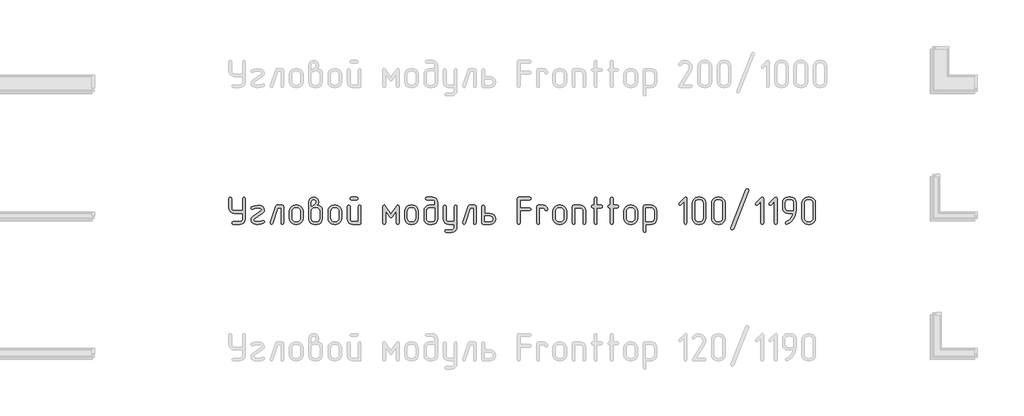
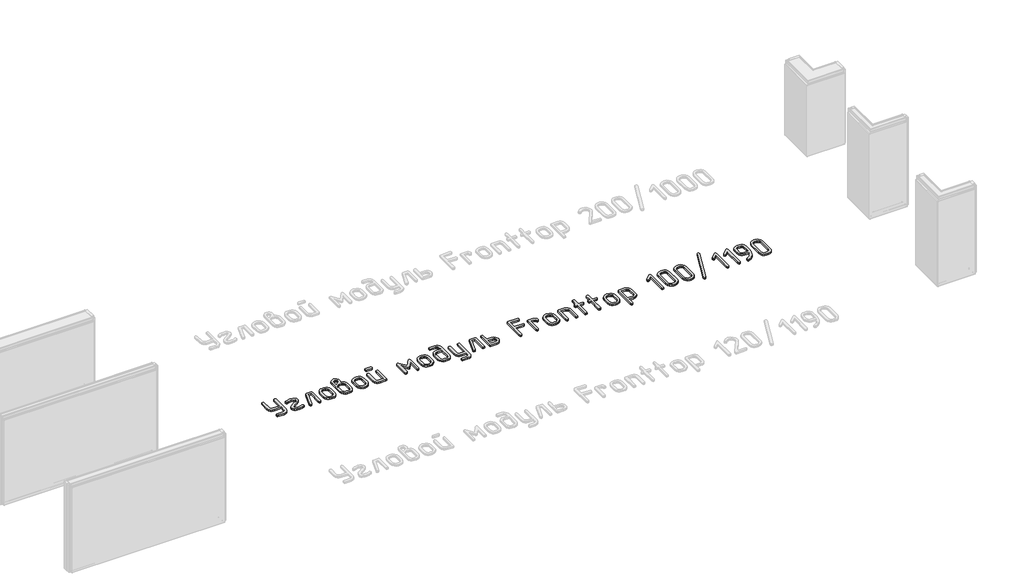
# One storey, part 30 of 37: 1 proxy.
"""IFC4 building model written with IfcOpenShell, lengths in millimetres."""

from ifc_helpers import new_model, si_unit, origin, origin_with_axes, place, context, project, spatial, polyline, outline, extrude, element, save

model = new_model("IFC4")

# Units and contexts
model_context = context("Model", 3, world=origin())
ifc_project = project(units=[si_unit("LENGTHUNIT", "METRE", prefix="MILLI")], contexts=[model_context])

# Site, building, storey
site = spatial("IfcSite", under=ifc_project)
building = spatial("IfcBuilding", under=site)
storey = spatial("IfcBuildingStorey", under=building, Name="Этаж 01", Elevation=0.0)

# Proxy
placement = place(None, origin())
element("IfcBuildingElementProxy", 1, Name="300 мм ГОСТ 2.304", ObjectType="300 мм ГОСТ 2.304", at=placement, inside=storey, context=model_context, shape_type="SweptSolid", body=[
    extrude(outline(polyline([(64282.5947081, -25108.7261154), (64192.9398643, -25108.7261154), (64169.869135, -25104.3522505), (64150.5152523, -25091.2306559), (64137.3936577, -25071.8767732), (64133.0197928, -25048.8060439), (64133.0197928, -24944.2838139), (64137.4124296, -24933.1332743), (64148.3377058, -24928.9659009), (64158.6247356, -24932.9080109), (64163.205092, -24944.2838139), (64163.205092, -25048.8060439), (64165.3357086, -25060.4540402), (64171.7275583, -25070.0183499), (64181.2918679, -25076.4101996), (64192.9398643, -25078.5408162), (64282.5947081, -25078.5408162), (64282.5947081, -24944.2838139), (64286.949801, -24933.1332743), (64297.4620942, -24928.9659009), (64307.9368436, -24932.9080109), (64312.3294804, -24944.2838139), (64312.3294804, -25168.19566), (64307.9556155, -25191.6042844), (64294.8340209, -25211.0707988), (64275.8180333, -25223.8544983), (64252.8599358, -25228.1157314), (64178.0724781, -25228.1157314), (64167.147202, -25223.7606385), (64163.205092, -25213.2483453), (64166.9219385, -25202.736052), (64178.0724781, -25198.3809591), (64252.8599358, -25198.3809591), (64264.2263528, -25196.1940267), (64273.8469783, -25189.6332294), (64280.4077756, -25179.8999722), (64282.5947081, -25168.19566), (64282.5947081, -25108.7261154)])), origin_with_axes(), (0.0, 0.0, 1.0), 20.0),
    extrude(outline(polyline([(64514.9914765, -25214.524838), (64485.4444237, -25225.0746752), (64451.6173658, -25228.5662583), (64430.8180428, -25227.4774851), (64413.0973199, -25224.5866044), (64396.8408093, -25219.4524755), (64384.8643037, -25209.3062353), (64377.4869265, -25195.6496401), (64375.0278008, -25179.984446), (64378.9699108, -25160.7619669), (64391.2467675, -25144.618088), (64486.5331969, -25078.991343), (64491.4139045, -25069.8306304), (64487.5844263, -25060.4071103), (64476.0959915, -25054.0621905), (64442.3815653, -25049.7070976), (64416.2510079, -25052.4290307), (64397.32888, -25060.5948299), (64388.1681673, -25064.1239569), (64377.693418, -25059.5436005), (64373.3007812, -25048.355517), (64379.4579815, -25037.0172579), (64408.0664367, -25024.777945), (64445.0096386, -25020.4228521), (64450.2657853, -25020.4228521), (64479.1370478, -25023.9144352), (64501.85111, -25033.7509382), (64516.7184961, -25049.0313073), (64521.9746427, -25068.9295767), (64517.7134096, -25086.6315276), (64504.9297101, -25102.193476), (64409.5681929, -25168.19566), (64404.3871341, -25179.6090069), (64408.1039806, -25189.8584928), (64417.9029396, -25195.7528858), (64434.3096259, -25197.5174493), (64451.9928049, -25198.3809591), (64478.4612575, -25196.2034127), (64501.0251441, -25187.8686659), (64508.4588371, -25186.1416463), (64519.1588499, -25190.7220026), (64523.3262233, -25201.9100861), (64521.2425366, -25209.1936036), (64514.9914765, -25214.524838)])), origin_with_axes(), (0.0, 0.0, 1.0), 20.0),
    extrude(outline(polyline([(64734.3229662, -25213.2483453), (64730.1555928, -25224.3988849), (64719.45558, -25228.1157314), (64708.9432868, -25224.1736215), (64704.5881939, -25213.2483453), (64704.5881939, -25048.8060439), (64670.0478018, -25048.8060439), (64614.0322964, -25218.0539651), (64608.5884303, -25225.4876581), (64600.5164908, -25228.1157314), (64589.7789341, -25224.1736215), (64585.1985778, -25213.6988721), (64586.0996315, -25208.4427255), (64645.1186493, -25029.133038), (64650.4498837, -25021.5867132), (64659.5355086, -25019.0712716), (64719.45558, -25019.0712716), (64730.6061197, -25022.7881181), (64734.3229662, -25033.9386577), (64734.3229662, -25213.2483453)])), origin_with_axes(), (0.0, 0.0, 1.0), 20.0),
    extrude(outline(polyline([(64945.7702359, -25162.4889865), (64940.9646162, -25187.9812976), (64926.5477569, -25209.3437792), (64905.5231704, -25223.4227434), (64880.143491, -25228.1157314), (64862.1975047, -25228.1157314), (64836.7615094, -25223.4227434), (64815.4177998, -25209.3437792), (64801.0009405, -25187.9812976), (64796.1953207, -25162.4889865), (64796.1953207, -25084.6980165), (64801.0009405, -25059.5436005), (64815.4177998, -25038.2937506), (64837.1744924, -25023.8768913), (64862.1975047, -25019.0712716), (64880.143491, -25019.0712716), (64905.288521, -25023.8862773), (64926.510213, -25038.3312945), (64940.9552302, -25059.5529865), (64945.7702359, -25084.6980165), (64945.7702359, -25162.4889865)]), holes=[polyline([(64916.0354636, -25162.4889865), (64916.0354636, -25084.6980165), (64913.4073903, -25070.9194036), (64905.5231704, -25059.3183371), (64893.9221039, -25051.4341172), (64880.143491, -25048.8060439), (64862.1975047, -25048.8060439), (64848.4282777, -25051.4341172), (64836.8553692, -25059.3183371), (64828.9993072, -25070.9194036), (64826.3806199, -25084.6980165), (64826.3806199, -25162.4889865), (64828.9993072, -25176.2675994), (64836.8553692, -25187.8686659), (64848.4282777, -25195.7528858), (64862.1975047, -25198.3809591), (64880.143491, -25198.3809591), (64893.9221039, -25195.7528858), (64905.5231704, -25187.8686659), (64913.4073903, -25176.2675994), (64916.0354636, -25162.4889865)])]), origin_with_axes(), (0.0, 0.0, 1.0), 20.0),
    extrude(outline(polyline([(65097.2974342, -25019.9723253), (65122.7897453, -25024.2335584), (65142.3501195, -25037.0172579), (65153.5006592, -25055.057104), (65157.2175057, -25078.5408162), (65157.2175057, -25168.19566), (65152.8436408, -25191.6042844), (65139.7220462, -25211.0707988), (65120.5934269, -25223.8544983), (65097.2974342, -25228.1157314), (65067.5626619, -25228.1157314), (65044.4919326, -25223.8544983), (65025.1380499, -25211.0707988), (65012.0164553, -25191.6042844), (65007.6425905, -25168.19566), (65007.6425905, -24983.2543867), (65011.9038236, -24960.3901489), (65024.6875231, -24942.5567943), (65041.4133325, -24932.3636243), (65061.8559884, -24928.9659009), (65081.9607493, -24932.3636243), (65098.573927, -24942.5567943), (65111.0760472, -24960.2775172), (65115.2434206, -24982.8038599), (65111.0760472, -25004.8421318), (65097.2974342, -25019.9723253)]), holes=[polyline([(65127.4827334, -25168.19566), (65127.4827334, -25078.5408162), (65125.295801, -25067.1743991), (65118.7350037, -25057.5537736), (65109.0017464, -25050.9929763), (65097.2974342, -25048.8060439), (65067.5626619, -25048.8060439), (65055.9146656, -25050.9929763), (65046.3503559, -25057.5537736), (65039.9585062, -25067.1743991), (65037.8278896, -25078.5408162), (65037.8278896, -25168.19566), (65039.9585062, -25179.8999722), (65046.3503559, -25189.6332294), (65055.9146656, -25196.1940267), (65067.5626619, -25198.3809591), (65097.2974342, -25198.3809591), (65109.0017464, -25196.1940267), (65118.7350037, -25189.6332294), (65125.295801, -25179.8999722), (65127.4827334, -25168.19566)]), polyline([(65037.8278896, -25029.133038), (65044.8110558, -25025.0032085), (65050.0672025, -25021.248818), (65060.1289688, -25014.0403884), (65067.5626619, -25008.5589783), (65079.8019748, -24997.671246), (65085.5086482, -24983.2543867), (65083.7065408, -24973.1644624), (65078.3002186, -24965.7213834), (65070.4723145, -24961.1316411), (65061.4054616, -24959.601727), (65052.4512404, -24961.1316411), (65044.8110558, -24965.7213834), (65039.5736812, -24973.1644624), (65037.8278896, -24983.2543867), (65037.8278896, -25029.133038)])]), origin_with_axes(), (0.0, 0.0, 1.0), 20.0),
    extrude(outline(polyline([(65368.6647755, -25162.4889865), (65363.8591557, -25187.9812976), (65349.4422964, -25209.3437792), (65328.4177099, -25223.4227434), (65303.0380305, -25228.1157314), (65285.0920442, -25228.1157314), (65259.6560489, -25223.4227434), (65238.3123393, -25209.3437792), (65223.89548, -25187.9812976), (65219.0898602, -25162.4889865), (65219.0898602, -25084.6980165), (65223.89548, -25059.5436005), (65238.3123393, -25038.2937506), (65260.0690319, -25023.8768913), (65285.0920442, -25019.0712716), (65303.0380305, -25019.0712716), (65328.1830605, -25023.8862773), (65349.4047525, -25038.3312945), (65363.8497697, -25059.5529865), (65368.6647755, -25084.6980165), (65368.6647755, -25162.4889865)]), holes=[polyline([(65338.9300032, -25162.4889865), (65338.9300032, -25084.6980165), (65336.3019298, -25070.9194036), (65328.4177099, -25059.3183371), (65316.8166434, -25051.4341172), (65303.0380305, -25048.8060439), (65285.0920442, -25048.8060439), (65271.3228172, -25051.4341172), (65259.7499087, -25059.3183371), (65251.8938467, -25070.9194036), (65249.2751594, -25084.6980165), (65249.2751594, -25162.4889865), (65251.8938467, -25176.2675994), (65259.7499087, -25187.8686659), (65271.3228172, -25195.7528858), (65285.0920442, -25198.3809591), (65303.0380305, -25198.3809591), (65316.8166434, -25195.7528858), (65328.4177099, -25187.8686659), (65336.3019298, -25176.2675994), (65338.9300032, -25162.4889865)])]), origin_with_axes(), (0.0, 0.0, 1.0), 20.0),
    extrude(outline(polyline([(65535.5098868, -24959.1512001), (65475.5898153, -24959.1512001), (65464.6645391, -24954.7961072), (65460.7224291, -24944.2838139), (65464.4392757, -24933.5838012), (65475.5898153, -24928.9659009), (65535.5098868, -24928.9659009), (65546.6604264, -24933.3585378), (65550.3772729, -24944.2838139), (65546.4351629, -24954.5708438), (65535.5098868, -24959.1512001)])), origin_with_axes(), (0.0, 0.0, 1.0), 20.0),
    extrude(outline(polyline([(65580.1120452, -25213.2483453), (65576.3951987, -25224.3988849), (65565.2446591, -25228.1157314), (65490.4572014, -25228.1157314), (65467.3864722, -25223.8544983), (65448.0325894, -25211.0707988), (65434.9109948, -25191.6042844), (65430.53713, -25168.19566), (65430.53713, -25033.9386577), (65434.9297668, -25023.0133815), (65445.855043, -25019.0712716), (65456.1420728, -25022.7881181), (65460.7224291, -25033.9386577), (65460.7224291, -25168.19566), (65462.8530457, -25179.8999722), (65469.2448954, -25189.6332294), (65478.8092051, -25196.1940267), (65490.4572014, -25198.3809591), (65550.3772729, -25198.3809591), (65550.3772729, -25033.9386577), (65554.7323658, -25023.0133815), (65565.2446591, -25019.0712716), (65575.7194084, -25022.7881181), (65580.1120452, -25033.9386577), (65580.1120452, -25213.2483453)])), origin_with_axes(), (0.0, 0.0, 1.0), 20.0),
    extrude(outline(polyline([(65999.1020187, -25213.2483453), (65994.7093818, -25224.1736215), (65984.2346325, -25228.1157314), (65973.4970758, -25224.3988849), (65969.3672464, -25213.2483453), (65969.3672464, -25080.2678358), (65921.6864877, -25147.2461613), (65915.5480594, -25153.1030104), (65909.4471749, -25155.0552934), (65903.121027, -25153.1030104), (65897.207862, -25147.2461613), (65849.9776303, -25080.2678358), (65849.9776303, -25213.2483453), (65845.3972739, -25224.1736215), (65835.1102441, -25228.1157314), (65823.9597045, -25224.3988849), (65819.7923311, -25213.2483453), (65819.7923311, -25033.9386577), (65823.5091776, -25021.0235546), (65832.9326977, -25016.4431983), (65840.666742, -25018.6395167), (65847.349557, -25025.2284719), (65909.4471749, -25112.6306814), (65971.9953197, -25025.2284719), (65978.7532225, -25018.6395167), (65985.9616521, -25016.4431983), (65995.3851721, -25021.0235546), (65999.1020187, -25033.9386577), (65999.1020187, -25213.2483453)])), origin_with_axes(), (0.0, 0.0, 1.0), 20.0),
    extrude(outline(polyline([(66209.6482347, -25162.4889865), (66204.8426149, -25187.9812976), (66190.4257556, -25209.3437792), (66169.4011692, -25223.4227434), (66144.0214898, -25228.1157314), (66126.0755035, -25228.1157314), (66100.6395082, -25223.4227434), (66079.2957985, -25209.3437792), (66064.8789392, -25187.9812976), (66060.0733195, -25162.4889865), (66060.0733195, -25084.6980165), (66064.8789392, -25059.5436005), (66079.2957985, -25038.2937506), (66101.0524911, -25023.8768913), (66126.0755035, -25019.0712716), (66144.0214898, -25019.0712716), (66169.1665198, -25023.8862773), (66190.3882117, -25038.3312945), (66204.833229, -25059.5529865), (66209.6482347, -25084.6980165), (66209.6482347, -25162.4889865)]), holes=[polyline([(66179.9134624, -25162.4889865), (66179.9134624, -25084.6980165), (66177.2853891, -25070.9194036), (66169.4011692, -25059.3183371), (66157.8001027, -25051.4341172), (66144.0214898, -25048.8060439), (66126.0755035, -25048.8060439), (66112.3062765, -25051.4341172), (66100.733368, -25059.3183371), (66092.877306, -25070.9194036), (66090.2586186, -25084.6980165), (66090.2586186, -25162.4889865), (66092.877306, -25176.2675994), (66100.733368, -25187.8686659), (66112.3062765, -25195.7528858), (66126.0755035, -25198.3809591), (66144.0214898, -25198.3809591), (66157.8001027, -25195.7528858), (66169.4011692, -25187.8686659), (66177.2853891, -25176.2675994), (66179.9134624, -25162.4889865)])]), origin_with_axes(), (0.0, 0.0, 1.0), 20.0),
    extrude(outline(polyline([(66391.3607322, -25019.0712716), (66391.3607322, -24988.8859724), (66389.1737997, -24977.2379761), (66382.6130024, -24967.6736664), (66372.8797452, -24961.2818167), (66361.175433, -24959.1512001), (66301.7058884, -24959.1512001), (66290.7806122, -24954.7961072), (66286.8385022, -24944.2838139), (66290.5553488, -24933.5838012), (66301.7058884, -24928.9659009), (66361.175433, -24928.9659009), (66384.4714257, -24933.3397658), (66403.600045, -24946.4613604), (66416.7216396, -24965.8152431), (66421.0955045, -24988.8859724), (66421.0955045, -25168.19566), (66416.7216396, -25191.6042844), (66403.600045, -25211.0707988), (66384.4714257, -25223.8544983), (66361.175433, -25228.1157314), (66331.4406607, -25228.1157314), (66308.3699314, -25223.8544983), (66289.0160487, -25211.0707988), (66275.8944541, -25191.6042844), (66271.5205892, -25168.19566), (66271.5205892, -25078.5408162), (66275.8944541, -25055.8079821), (66289.0160487, -25036.566731), (66308.3699314, -25023.4451364), (66331.4406607, -25019.0712716), (66391.3607322, -25019.0712716)]), holes=[polyline([(66391.3607322, -25048.8060439), (66331.4406607, -25048.8060439), (66319.7926643, -25050.9929763), (66310.2283547, -25057.5537736), (66303.836505, -25067.1743991), (66301.7058884, -25078.5408162), (66301.7058884, -25168.19566), (66303.836505, -25179.8999722), (66310.2283547, -25189.6332294), (66319.7926643, -25196.1940267), (66331.4406607, -25198.3809591), (66361.175433, -25198.3809591), (66372.8797452, -25196.1940267), (66382.6130024, -25189.6332294), (66389.1737997, -25179.8999722), (66391.3607322, -25168.19566), (66391.3607322, -25048.8060439)])]), origin_with_axes(), (0.0, 0.0, 1.0), 20.0),
    extrude(outline(polyline([(66602.8080019, -25228.1157314), (66542.8879304, -25228.1157314), (66519.8172012, -25223.8544983), (66500.4633184, -25211.0707988), (66487.3417238, -25191.6042844), (66482.967859, -25168.19566), (66482.967859, -25033.9386577), (66487.3604958, -25023.0133815), (66498.285772, -25019.0712716), (66508.5728018, -25022.7881181), (66513.1531581, -25033.9386577), (66513.1531581, -25168.19566), (66515.2837747, -25179.8999722), (66521.6756244, -25189.6332294), (66531.2399341, -25196.1940267), (66542.8879304, -25198.3809591), (66602.8080019, -25198.3809591), (66602.8080019, -25033.9386577), (66607.1630948, -25023.0133815), (66617.6753881, -25019.0712716), (66628.1501374, -25022.7881181), (66632.5427742, -25033.9386577), (66632.5427742, -25257.8505038), (66628.2815411, -25281.1464965), (66615.4978416, -25300.2751158), (66596.0313272, -25313.3967104), (66572.6227028, -25317.7705752), (66513.1531581, -25317.7705752), (66502.2278819, -25313.3779384), (66498.285772, -25302.9031891), (66502.0026185, -25292.3908958), (66513.1531581, -25288.0358029), (66572.6227028, -25288.0358029), (66584.327015, -25285.8488705), (66594.0602722, -25279.2880732), (66600.6210695, -25269.554816), (66602.8080019, -25257.8505038), (66602.8080019, -25228.1157314)])), origin_with_axes(), (0.0, 0.0, 1.0), 20.0),
    extrude(outline(polyline([(66843.990044, -25213.2483453), (66839.8226706, -25224.3988849), (66829.1226578, -25228.1157314), (66818.6103646, -25224.1736215), (66814.2552717, -25213.2483453), (66814.2552717, -25048.8060439), (66779.7148796, -25048.8060439), (66723.6993742, -25218.0539651), (66718.255508, -25225.4876581), (66710.1835686, -25228.1157314), (66699.4460119, -25224.1736215), (66694.8656556, -25213.6988721), (66695.7667093, -25208.4427255), (66754.7857271, -25029.133038), (66760.1169615, -25021.5867132), (66769.2025864, -25019.0712716), (66829.1226578, -25019.0712716), (66840.2731974, -25022.7881181), (66843.990044, -25033.9386577), (66843.990044, -25213.2483453)])), origin_with_axes(), (0.0, 0.0, 1.0), 20.0),
    extrude(outline(polyline([(66936.0476976, -25108.7261154), (66995.5172423, -25108.7261154), (67021.0095534, -25113.3252436), (67040.5699276, -25127.1226285), (67051.7204672, -25145.4628258), (67055.4373137, -25168.19566), (67051.8330989, -25190.9472661), (67041.0204544, -25209.3437792), (67021.1221851, -25223.4227434), (66995.5172423, -25228.1157314), (66921.1803115, -25228.1157314), (66909.6918767, -25224.3988849), (66905.8623985, -25213.2483453), (66905.8623985, -25033.9386577), (66910.2550353, -25023.0133815), (66921.1803115, -25019.0712716), (66931.4673413, -25022.7881181), (66936.0476976, -25033.9386577), (66936.0476976, -25108.7261154)]), holes=[polyline([(66936.0476976, -25138.4608877), (66936.0476976, -25198.3809591), (66995.5172423, -25198.3809591), (67008.3009417, -25196.1377108), (67017.8183215, -25189.407966), (67023.7314864, -25179.6183929), (67025.7025414, -25168.19566), (67023.8441182, -25157.1577521), (67018.2688483, -25147.6216003), (67008.6388369, -25140.7510658), (66995.5172423, -25138.4608877), (66936.0476976, -25138.4608877)])]), origin_with_axes(), (0.0, 0.0, 1.0), 20.0),
    extrude(outline(polyline([(67325.3028988, -25048.355517), (67429.8251287, -25048.355517), (67440.9756683, -25052.5228904), (67444.6925149, -25063.2229032), (67440.7504049, -25073.9604598), (67429.8251287, -25078.5408162), (67325.3028988, -25078.5408162), (67325.3028988, -25213.2483453), (67321.1355254, -25224.3988849), (67310.4355126, -25228.1157314), (67299.697956, -25224.1736215), (67295.1175996, -25213.2483453), (67295.1175996, -24944.2838139), (67298.9470779, -24932.7953792), (67310.4355126, -24928.9659009), (67429.8251287, -24928.9659009), (67440.9756683, -24933.3585378), (67444.6925149, -24944.2838139), (67440.7504049, -24954.5708438), (67429.8251287, -24959.1512001), (67325.3028988, -24959.1512001), (67325.3028988, -25048.355517)])), origin_with_axes(), (0.0, 0.0, 1.0), 20.0),
    extrude(outline(polyline([(67626.4050123, -25063.67343), (67622.2376389, -25074.8239697), (67611.5376262, -25078.5408162), (67600.8000695, -25074.5987062), (67596.2197132, -25063.67343), (67592.0523398, -25053.1986807), (67581.352327, -25048.8060439), (67536.7501685, -25048.8060439), (67536.7501685, -25213.2483453), (67532.5827951, -25224.3988849), (67521.8827824, -25228.1157314), (67511.1452257, -25224.1736215), (67506.5648694, -25213.2483453), (67506.5648694, -25033.9386577), (67510.3943476, -25022.7881181), (67521.8827824, -25019.0712716), (67581.352327, -25019.0712716), (67598.8477865, -25022.5628547), (67613.3021897, -25032.1740942), (67622.9134292, -25046.403234), (67626.4050123, -25063.67343)])), origin_with_axes(), (0.0, 0.0, 1.0), 20.0),
    extrude(outline(polyline([(67833.947716, -25162.4889865), (67829.1420963, -25187.9812976), (67814.7252369, -25209.3437792), (67793.7006505, -25223.4227434), (67768.3209711, -25228.1157314), (67750.3749848, -25228.1157314), (67724.9389895, -25223.4227434), (67703.5952798, -25209.3437792), (67689.1784205, -25187.9812976), (67684.3728008, -25162.4889865), (67684.3728008, -25084.6980165), (67689.1784205, -25059.5436005), (67703.5952798, -25038.2937506), (67725.3519725, -25023.8768913), (67750.3749848, -25019.0712716), (67768.3209711, -25019.0712716), (67793.4660011, -25023.8862773), (67814.687693, -25038.3312945), (67829.1327103, -25059.5529865), (67833.947716, -25084.6980165), (67833.947716, -25162.4889865)]), holes=[polyline([(67804.2129437, -25162.4889865), (67804.2129437, -25084.6980165), (67801.5848704, -25070.9194036), (67793.7006505, -25059.3183371), (67782.099584, -25051.4341172), (67768.3209711, -25048.8060439), (67750.3749848, -25048.8060439), (67736.6057578, -25051.4341172), (67725.0328493, -25059.3183371), (67717.1767873, -25070.9194036), (67714.5580999, -25084.6980165), (67714.5580999, -25162.4889865), (67717.1767873, -25176.2675994), (67725.0328493, -25187.8686659), (67736.6057578, -25195.7528858), (67750.3749848, -25198.3809591), (67768.3209711, -25198.3809591), (67782.099584, -25195.7528858), (67793.7006505, -25187.8686659), (67801.5848704, -25176.2675994), (67804.2129437, -25162.4889865)])]), origin_with_axes(), (0.0, 0.0, 1.0), 20.0),
    extrude(outline(polyline([(68045.3949858, -25213.2483453), (68041.2276124, -25224.3988849), (68030.5275996, -25228.1157314), (68020.0153064, -25224.1736215), (68015.6602135, -25213.2483453), (68015.6602135, -25078.5408162), (68013.473281, -25067.1743991), (68006.9124837, -25057.5537736), (67997.1792265, -25050.9929763), (67985.4749143, -25048.8060439), (67926.0053697, -25048.8060439), (67926.0053697, -25213.2483453), (67921.8379963, -25224.3988849), (67911.1379835, -25228.1157314), (67900.4004269, -25224.1736215), (67895.8200705, -25213.2483453), (67895.8200705, -25033.9386577), (67899.6495488, -25022.7881181), (67911.1379835, -25019.0712716), (67985.4749143, -25019.0712716), (68008.770907, -25023.3325047), (68027.8995263, -25036.1162042), (68041.0211209, -25055.4700869), (68045.3949858, -25078.5408162), (68045.3949858, -25213.2483453)])), origin_with_axes(), (0.0, 0.0, 1.0), 20.0),
    extrude(outline(polyline([(68167.1874117, -25019.0712716), (68212.2400971, -25019.0712716), (68223.3906367, -25023.238645), (68227.1074832, -25033.9386577), (68223.1653733, -25044.2256875), (68212.2400971, -25048.8060439), (68167.1874117, -25048.8060439), (68167.1874117, -25213.2483453), (68163.0200384, -25224.3988849), (68152.3200256, -25228.1157314), (68141.8077324, -25224.1736215), (68137.4526394, -25213.2483453), (68137.4526394, -25048.8060439), (68122.5852533, -25048.8060439), (68111.4347137, -25044.450951), (68107.2673403, -25033.9386577), (68111.2094502, -25023.4639084), (68122.5852533, -25019.0712716), (68137.4526394, -25019.0712716), (68137.4526394, -24944.2838139), (68141.8077324, -24933.1332743), (68152.3200256, -24928.9659009), (68162.7947749, -24932.9080109), (68167.1874117, -24944.2838139), (68167.1874117, -25019.0712716)])), origin_with_axes(), (0.0, 0.0, 1.0), 20.0),
    extrude(outline(polyline([(68344.9953431, -25019.0712716), (68390.0480284, -25019.0712716), (68401.1985681, -25023.238645), (68404.9154146, -25033.9386577), (68400.9733046, -25044.2256875), (68390.0480284, -25048.8060439), (68344.9953431, -25048.8060439), (68344.9953431, -25213.2483453), (68340.8279697, -25224.3988849), (68330.127957, -25228.1157314), (68319.6156637, -25224.1736215), (68315.2605708, -25213.2483453), (68315.2605708, -25048.8060439), (68300.3931847, -25048.8060439), (68289.2426451, -25044.450951), (68285.0752717, -25033.9386577), (68289.0173816, -25023.4639084), (68300.3931847, -25019.0712716), (68315.2605708, -25019.0712716), (68315.2605708, -24944.2838139), (68319.6156637, -24933.1332743), (68330.127957, -24928.9659009), (68340.6027063, -24932.9080109), (68344.9953431, -24944.2838139), (68344.9953431, -25019.0712716)])), origin_with_axes(), (0.0, 0.0, 1.0), 20.0),
    extrude(outline(polyline([(68612.4581183, -25162.4889865), (68607.6524985, -25187.9812976), (68593.2356392, -25209.3437792), (68572.2110527, -25223.4227434), (68546.8313734, -25228.1157314), (68528.885387, -25228.1157314), (68503.4493918, -25223.4227434), (68482.1056821, -25209.3437792), (68467.6888228, -25187.9812976), (68462.883203, -25162.4889865), (68462.883203, -25084.6980165), (68467.6888228, -25059.5436005), (68482.1056821, -25038.2937506), (68503.8623747, -25023.8768913), (68528.885387, -25019.0712716), (68546.8313734, -25019.0712716), (68571.9764033, -25023.8862773), (68593.1980953, -25038.3312945), (68607.6431126, -25059.5529865), (68612.4581183, -25084.6980165), (68612.4581183, -25162.4889865)]), holes=[polyline([(68582.723346, -25162.4889865), (68582.723346, -25084.6980165), (68580.0952727, -25070.9194036), (68572.2110527, -25059.3183371), (68560.6099863, -25051.4341172), (68546.8313734, -25048.8060439), (68528.885387, -25048.8060439), (68515.1161601, -25051.4341172), (68503.5432515, -25059.3183371), (68495.6871895, -25070.9194036), (68493.0685022, -25084.6980165), (68493.0685022, -25162.4889865), (68495.6871895, -25176.2675994), (68503.5432515, -25187.8686659), (68515.1161601, -25195.7528858), (68528.885387, -25198.3809591), (68546.8313734, -25198.3809591), (68560.6099863, -25195.7528858), (68572.2110527, -25187.8686659), (68580.0952727, -25176.2675994), (68582.723346, -25162.4889865)])]), origin_with_axes(), (0.0, 0.0, 1.0), 20.0),
    extrude(outline(polyline([(68704.515772, -25228.1157314), (68704.515772, -25302.9031891), (68700.3483986, -25314.0537287), (68689.6483858, -25317.7705752), (68678.9108291, -25313.8284653), (68674.3304728, -25302.9031891), (68674.3304728, -25033.9386577), (68678.1599511, -25022.7881181), (68689.6483858, -25019.0712716), (68763.9853166, -25019.0712716), (68787.2813093, -25023.3325047), (68806.4099286, -25036.1162042), (68819.5315232, -25055.4700869), (68823.9053881, -25078.5408162), (68823.9053881, -25168.19566), (68819.5315232, -25191.6042844), (68806.4099286, -25211.0707988), (68787.2813093, -25223.8544983), (68763.9853166, -25228.1157314), (68704.515772, -25228.1157314)]), holes=[polyline([(68704.515772, -25198.3809591), (68763.9853166, -25198.3809591), (68775.6896288, -25196.1940267), (68785.422886, -25189.6332294), (68791.9836833, -25179.8999722), (68794.1706157, -25168.19566), (68794.1706157, -25078.5408162), (68791.9836833, -25067.1743991), (68785.422886, -25057.5537736), (68775.6896288, -25050.9929763), (68763.9853166, -25048.8060439), (68704.515772, -25048.8060439), (68704.515772, -25198.3809591)])]), origin_with_axes(), (0.0, 0.0, 1.0), 20.0),
    extrude(outline(polyline([(69153.2405177, -25213.2483453), (69149.0731443, -25224.3988849), (69138.3731316, -25228.1157314), (69128.0861018, -25224.1736215), (69123.5057454, -25213.2483453), (69123.5057454, -24980.1757866), (69088.9653533, -25014.2656518), (69078.9035869, -25019.0712716), (69068.1660303, -25014.4909152), (69063.5856739, -25003.7533586), (69068.3912937, -24993.3161531), (69127.8608383, -24933.7715207), (69141.0012049, -24927.2388813), (69149.7489346, -24931.6315182), (69153.2405177, -24944.2838139), (69153.2405177, -25213.2483453)])), origin_with_axes(), (0.0, 0.0, 1.0), 20.0),
    extrude(outline(polyline([(69362.134802, -25162.4889865), (69357.3291822, -25187.9812976), (69342.9123229, -25209.3437792), (69321.8877364, -25223.4227434), (69296.508057, -25228.1157314), (69278.5620707, -25228.1157314), (69253.1260755, -25223.4227434), (69231.7823658, -25209.3437792), (69217.3655065, -25187.9812976), (69212.5598867, -25162.4889865), (69212.5598867, -24995.0431727), (69217.3655065, -24969.8887568), (69231.7823658, -24948.6389069), (69253.313795, -24933.8841524), (69278.5620707, -24928.9659009), (69296.508057, -24928.9659009), (69321.653087, -24933.7809067), (69342.874779, -24948.2259239), (69357.3197962, -24969.5602476), (69362.134802, -24995.0431727), (69362.134802, -25162.4889865)]), holes=[polyline([(69332.4000297, -25162.4889865), (69332.4000297, -24995.0431727), (69329.7719564, -24981.2645598), (69321.8877364, -24969.6634933), (69310.28667, -24961.7792734), (69296.508057, -24959.1512001), (69278.5620707, -24959.1512001), (69264.7928438, -24961.7792734), (69253.2199352, -24969.6634933), (69245.3638732, -24981.2645598), (69242.7451859, -24995.0431727), (69242.7451859, -25162.4889865), (69245.3638732, -25176.2675994), (69253.2199352, -25187.8686659), (69264.7928438, -25195.7528858), (69278.5620707, -25198.3809591), (69296.508057, -25198.3809591), (69310.28667, -25195.7528858), (69321.8877364, -25187.8686659), (69329.7719564, -25176.2675994), (69332.4000297, -25162.4889865)])]), origin_with_axes(), (0.0, 0.0, 1.0), 20.0),
    extrude(outline(polyline([(69573.5820717, -25162.4889865), (69568.776452, -25187.9812976), (69554.3595927, -25209.3437792), (69533.3350062, -25223.4227434), (69507.9553268, -25228.1157314), (69490.0093405, -25228.1157314), (69464.5733452, -25223.4227434), (69443.2296355, -25209.3437792), (69428.8127762, -25187.9812976), (69424.0071565, -25162.4889865), (69424.0071565, -24995.0431727), (69428.8127762, -24969.8887568), (69443.2296355, -24948.6389069), (69464.7610647, -24933.8841524), (69490.0093405, -24928.9659009), (69507.9553268, -24928.9659009), (69533.1003568, -24933.7809067), (69554.3220488, -24948.2259239), (69568.767066, -24969.5602476), (69573.5820717, -24995.0431727), (69573.5820717, -25162.4889865)]), holes=[polyline([(69543.8472994, -25162.4889865), (69543.8472994, -24995.0431727), (69541.2192261, -24981.2645598), (69533.3350062, -24969.6634933), (69521.7339397, -24961.7792734), (69507.9553268, -24959.1512001), (69490.0093405, -24959.1512001), (69476.2401135, -24961.7792734), (69464.667205, -24969.6634933), (69456.811143, -24981.2645598), (69454.1924556, -24995.0431727), (69454.1924556, -25162.4889865), (69456.811143, -25176.2675994), (69464.667205, -25187.8686659), (69476.2401135, -25195.7528858), (69490.0093405, -25198.3809591), (69507.9553268, -25198.3809591), (69521.7339397, -25195.7528858), (69533.3350062, -25187.8686659), (69541.2192261, -25176.2675994), (69543.8472994, -25162.4889865)])]), origin_with_axes(), (0.0, 0.0, 1.0), 20.0),
    extrude(outline(polyline([(69829.1809731, -24859.8851168), (69664.7386717, -25278.4245634), (69659.0695421, -25285.4077296), (69651.2228661, -25288.0358029), (69640.260046, -25283.8684295), (69635.4544262, -25273.1684168), (69636.3554799, -25267.4617433), (69800.7977813, -24848.9973845), (69806.4669109, -24841.9391305), (69814.3135869, -24839.3110572), (69825.276407, -24843.703694), (69830.0820268, -24854.1784433), (69829.1809731, -24859.8851168)])), origin_with_axes(), (0.0, 0.0, 1.0), 20.0),
    extrude(outline(polyline([(69994.223977, -25213.2483453), (69990.0566036, -25224.3988849), (69979.3565908, -25228.1157314), (69969.069561, -25224.1736215), (69964.4892047, -25213.2483453), (69964.4892047, -24980.1757866), (69929.9488126, -25014.2656518), (69919.8870462, -25019.0712716), (69909.1494895, -25014.4909152), (69904.5691332, -25003.7533586), (69909.374753, -24993.3161531), (69968.8442976, -24933.7715207), (69981.9846641, -24927.2388813), (69990.7323939, -24931.6315182), (69994.223977, -24944.2838139), (69994.223977, -25213.2483453)])), origin_with_axes(), (0.0, 0.0, 1.0), 20.0),
    extrude(outline(polyline([(70143.1981898, -25213.2483453), (70139.0308164, -25224.3988849), (70128.3308036, -25228.1157314), (70118.0437738, -25224.1736215), (70113.4634175, -25213.2483453), (70113.4634175, -24980.1757866), (70078.9230254, -25014.2656518), (70068.861259, -25019.0712716), (70058.1237023, -25014.4909152), (70053.543346, -25003.7533586), (70058.3489657, -24993.3161531), (70117.8185104, -24933.7715207), (70130.9588769, -24927.2388813), (70139.7066066, -24931.6315182), (70143.1981898, -24944.2838139), (70143.1981898, -25213.2483453)])), origin_with_axes(), (0.0, 0.0, 1.0), 20.0),
    extrude(outline(polyline([(70316.6510282, -25108.7261154), (70262.4376302, -25108.7261154), (70239.366901, -25104.3522505), (70220.0130182, -25091.2306559), (70206.8914236, -25071.8767732), (70202.5175588, -25048.8060439), (70202.5175588, -24988.8859724), (70206.8914236, -24965.8152431), (70220.0130182, -24946.4613604), (70239.366901, -24933.3397658), (70262.4376302, -24928.9659009), (70292.1724025, -24928.9659009), (70315.4683952, -24933.3397658), (70334.5970145, -24946.4613604), (70347.7186091, -24965.8152431), (70352.092474, -24988.8859724), (70352.092474, -25063.2229032), (70348.150364, -25105.347164), (70336.3240342, -25144.1675611), (70322.0667364, -25170.5796979), (70302.8724153, -25193.8006028), (70279.6421244, -25212.8729062), (70253.2769176, -25226.8392387), (70247.1197172, -25228.1157314), (70236.8702313, -25223.3101117), (70232.7028579, -25212.3472916), (70234.8804044, -25204.725879), (70241.8635706, -25199.2820128), (70263.1885083, -25188.0939293), (70281.6601093, -25173.0012797), (70296.8466186, -25154.3231873), (70308.3162814, -25132.3787751), (70312.7464622, -25120.7777087), (70316.6510282, -25108.7261154)]), holes=[polyline([(70321.456648, -25078.1278332), (70321.6819114, -25073.09695), (70322.1324383, -25061.5334275), (70322.3577017, -25036.1162042), (70322.3577017, -24988.8859724), (70320.1707693, -24977.2379761), (70313.609972, -24967.6736664), (70303.8767147, -24961.2818167), (70292.1724025, -24959.1512001), (70262.4376302, -24959.1512001), (70250.7896339, -24961.2818167), (70241.2253242, -24967.6736664), (70234.8334745, -24977.2379761), (70232.7028579, -24988.8859724), (70232.7028579, -25048.8060439), (70234.8334745, -25060.4540402), (70241.2253242, -25070.0183499), (70250.7896339, -25076.4101996), (70262.4376302, -25078.5408162), (70321.456648, -25078.1278332)])]), origin_with_axes(), (0.0, 0.0, 1.0), 20.0),
    extrude(outline(polyline([(70563.5397438, -25162.4889865), (70558.734124, -25187.9812976), (70544.3172647, -25209.3437792), (70523.2926782, -25223.4227434), (70497.9129988, -25228.1157314), (70479.9670125, -25228.1157314), (70454.5310173, -25223.4227434), (70433.1873076, -25209.3437792), (70418.7704483, -25187.9812976), (70413.9648285, -25162.4889865), (70413.9648285, -24995.0431727), (70418.7704483, -24969.8887568), (70433.1873076, -24948.6389069), (70454.7187368, -24933.8841524), (70479.9670125, -24928.9659009), (70497.9129988, -24928.9659009), (70523.0580288, -24933.7809067), (70544.2797208, -24948.2259239), (70558.724738, -24969.5602476), (70563.5397438, -24995.0431727), (70563.5397438, -25162.4889865)]), holes=[polyline([(70533.8049715, -25162.4889865), (70533.8049715, -24995.0431727), (70531.1768982, -24981.2645598), (70523.2926782, -24969.6634933), (70511.6916118, -24961.7792734), (70497.9129988, -24959.1512001), (70479.9670125, -24959.1512001), (70466.1977856, -24961.7792734), (70454.624877, -24969.6634933), (70446.768815, -24981.2645598), (70444.1501277, -24995.0431727), (70444.1501277, -25162.4889865), (70446.768815, -25176.2675994), (70454.624877, -25187.8686659), (70466.1977856, -25195.7528858), (70479.9670125, -25198.3809591), (70497.9129988, -25198.3809591), (70511.6916118, -25195.7528858), (70523.2926782, -25187.8686659), (70531.1768982, -25176.2675994), (70533.8049715, -25162.4889865)])]), origin_with_axes(), (0.0, 0.0, 1.0), 20.0),
])

save(model, "model.ifc")
